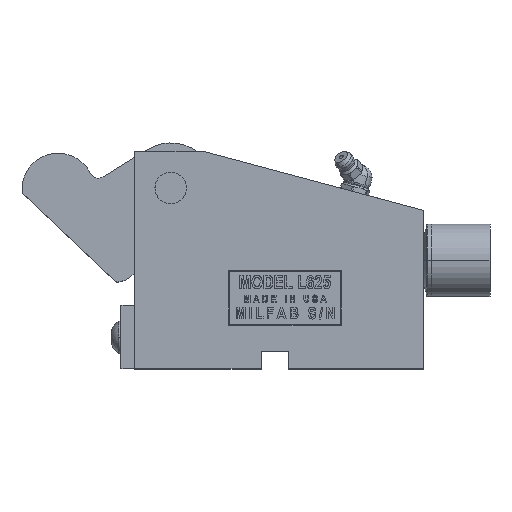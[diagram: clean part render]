
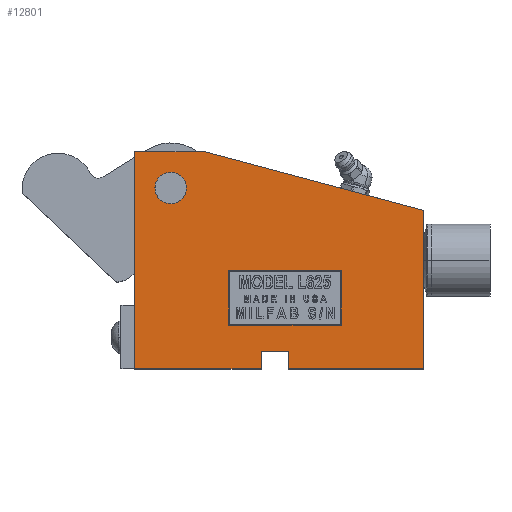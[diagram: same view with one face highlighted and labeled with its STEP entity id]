
A CAD part, top view. The second image highlights one B-rep face of the part: STEP entity #12801.
In plain terms, the highlighted planar face has unit normal (0, 0, 1).
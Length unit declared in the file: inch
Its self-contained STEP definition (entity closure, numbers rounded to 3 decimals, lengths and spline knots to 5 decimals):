
#3869 = PLANE ( 'NONE',  #4307 ) ;
#4004 = CARTESIAN_POINT ( 'NONE',  ( 7.78564, 3.01171, 0. ) ) ;
#4307 = AXIS2_PLACEMENT_3D ( 'NONE', #4004, #4722, #4718 ) ;
#4718 = DIRECTION ( 'NONE',  ( -1., 0., 0. ) ) ;
#4722 = DIRECTION ( 'NONE',  ( 0., 0., -1. ) ) ;
#4832 = CARTESIAN_POINT ( 'NONE',  ( 6.63768, 5.77171, 0. ) ) ;
#4843 = DIRECTION ( 'NONE',  ( -0.966, 0.259, 0. ) ) ;
#4844 = VECTOR ( 'NONE', #4843, 39.37008 ) ;
#4845 = CARTESIAN_POINT ( 'NONE',  ( 6.63768, 5.77171, 0. ) ) ;
#4849 = LINE ( 'NONE', #4845, #4844 ) ;
#4853 = DIRECTION ( 'NONE',  ( 0., 1., 0. ) ) ;
#4854 = VECTOR ( 'NONE', #4853, 39.37008 ) ;
#4855 = CARTESIAN_POINT ( 'NONE',  ( 7.41064, 2.77171, 0. ) ) ;
#4856 = LINE ( 'NONE', #4855, #4854 ) ;
#4939 = DIRECTION ( 'NONE',  ( 0., -1., 0. ) ) ;
#4940 = VECTOR ( 'NONE', #4939, 39.37008 ) ;
#4941 = CARTESIAN_POINT ( 'NONE',  ( 5.66064, 2.77171, 0. ) ) ;
#4942 = LINE ( 'NONE', #4941, #4940 ) ;
#4987 = CARTESIAN_POINT ( 'NONE',  ( 9.66064, 4.96171, 0. ) ) ;
#5006 = CARTESIAN_POINT ( 'NONE',  ( 7.78564, 3.01171, 0. ) ) ;
#5007 = DIRECTION ( 'NONE',  ( 0., -1., 0. ) ) ;
#5008 = VECTOR ( 'NONE', #5007, 39.37008 ) ;
#5009 = CARTESIAN_POINT ( 'NONE',  ( 7.78564, 2.77171, 0. ) ) ;
#5010 = LINE ( 'NONE', #5009, #5008 ) ;
#5018 = CARTESIAN_POINT ( 'NONE',  ( 7.41064, 2.77171, 0. ) ) ;
#5037 = CARTESIAN_POINT ( 'NONE',  ( 5.66064, 2.77171, 0. ) ) ;
#5039 = DIRECTION ( 'NONE',  ( 1., 0., 0. ) ) ;
#5040 = VECTOR ( 'NONE', #5039, 39.37008 ) ;
#5041 = CARTESIAN_POINT ( 'NONE',  ( 5.66064, 2.77171, 0. ) ) ;
#5042 = LINE ( 'NONE', #5041, #5040 ) ;
#5047 = DIRECTION ( 'NONE',  ( -1., 0., 0. ) ) ;
#5048 = VECTOR ( 'NONE', #5047, 39.37008 ) ;
#5049 = CARTESIAN_POINT ( 'NONE',  ( 5.66064, 5.77171, 0. ) ) ;
#5050 = LINE ( 'NONE', #5049, #5048 ) ;
#5122 = CARTESIAN_POINT ( 'NONE',  ( 7.41064, 3.01171, 0. ) ) ;
#5123 = DIRECTION ( 'NONE',  ( 1., 0., 0. ) ) ;
#5124 = VECTOR ( 'NONE', #5123, 39.37008 ) ;
#5125 = CARTESIAN_POINT ( 'NONE',  ( 7.41064, 3.01171, 0. ) ) ;
#5126 = LINE ( 'NONE', #5125, #5124 ) ;
#5289 = CARTESIAN_POINT ( 'NONE',  ( 5.66064, 5.77171, 0. ) ) ;
#5423 = CARTESIAN_POINT ( 'NONE',  ( 9.66064, 2.77171, 0. ) ) ;
#5424 = CARTESIAN_POINT ( 'NONE',  ( 7.78564, 2.77171, 0. ) ) ;
#5425 = DIRECTION ( 'NONE',  ( 1., 0., 0. ) ) ;
#5426 = VECTOR ( 'NONE', #5425, 39.37008 ) ;
#5427 = CARTESIAN_POINT ( 'NONE',  ( 7.78564, 2.77171, 0. ) ) ;
#5428 = LINE ( 'NONE', #5427, #5426 ) ;
#5492 = FACE_OUTER_BOUND ( 'NONE', #12732, .T. ) ;
#5493 = FACE_BOUND ( 'NONE', #12728, .T. ) ;
#5494 = FACE_BOUND ( 'NONE', #12802, .T. ) ;
#5637 = DIRECTION ( 'NONE',  ( 0., 1., 0. ) ) ;
#5638 = VECTOR ( 'NONE', #5637, 39.37008 ) ;
#5639 = CARTESIAN_POINT ( 'NONE',  ( 9.66064, 2.77171, 0. ) ) ;
#5640 = LINE ( 'NONE', #5639, #5638 ) ;
#5641 = DIRECTION ( 'NONE',  ( 1., 0., 0. ) ) ;
#5642 = DIRECTION ( 'NONE',  ( 0., 0., 1. ) ) ;
#5643 = CARTESIAN_POINT ( 'NONE',  ( 6.16064, 5.27171, 0. ) ) ;
#5644 = AXIS2_PLACEMENT_3D ( 'NONE', #5643, #5642, #5641 ) ;
#5645 = CIRCLE ( 'NONE', #5644, 0.218 ) ;
#5646 = DIRECTION ( 'NONE',  ( 0., 1., 0. ) ) ;
#5647 = VECTOR ( 'NONE', #5646, 39.37008 ) ;
#5648 = CARTESIAN_POINT ( 'NONE',  ( 8.52064, 3.37171, 0. ) ) ;
#5649 = LINE ( 'NONE', #5648, #5647 ) ;
#5655 = CARTESIAN_POINT ( 'NONE',  ( 8.52064, 4.13171, 0. ) ) ;
#5799 = CARTESIAN_POINT ( 'NONE',  ( 6.96064, 3.37171, 0. ) ) ;
#5800 = DIRECTION ( 'NONE',  ( 1., 0., 0. ) ) ;
#5831 = DIRECTION ( 'NONE',  ( -1., 0., 0. ) ) ;
#5832 = VECTOR ( 'NONE', #5831, 39.37008 ) ;
#5833 = CARTESIAN_POINT ( 'NONE',  ( 6.96064, 4.13171, 0. ) ) ;
#5834 = LINE ( 'NONE', #5833, #5832 ) ;
#5835 = CARTESIAN_POINT ( 'NONE',  ( 6.96064, 4.13171, 0. ) ) ;
#5836 = DIRECTION ( 'NONE',  ( 0., -1., 0. ) ) ;
#5837 = VECTOR ( 'NONE', #5836, 39.37008 ) ;
#5862 = CARTESIAN_POINT ( 'NONE',  ( 6.96064, 3.37171, 0. ) ) ;
#5863 = LINE ( 'NONE', #5862, #5837 ) ;
#5864 = CARTESIAN_POINT ( 'NONE',  ( 8.52064, 3.37171, 0. ) ) ;
#5887 = VECTOR ( 'NONE', #5800, 39.37008 ) ;
#5888 = CARTESIAN_POINT ( 'NONE',  ( 6.96064, 3.37171, 0. ) ) ;
#5889 = LINE ( 'NONE', #5888, #5887 ) ;
#11197 = EDGE_CURVE ( 'NONE', #11232, #11198, #17622, .T. ) ;
#11198 = VERTEX_POINT ( 'NONE', #18005 ) ;
#11232 = VERTEX_POINT ( 'NONE', #18056 ) ;
#12231 = VERTEX_POINT ( 'NONE', #4987 ) ;
#12261 = EDGE_CURVE ( 'NONE', #12315, #12446, #4856, .T. ) ;
#12263 = EDGE_CURVE ( 'NONE', #12231, #12269, #4849, .T. ) ;
#12269 = VERTEX_POINT ( 'NONE', #4832 ) ;
#12273 = EDGE_CURVE ( 'NONE', #12490, #12369, #4942, .T. ) ;
#12315 = VERTEX_POINT ( 'NONE', #5018 ) ;
#12332 = EDGE_CURVE ( 'NONE', #12269, #12490, #5050, .T. ) ;
#12368 = EDGE_CURVE ( 'NONE', #12369, #12315, #5042, .T. ) ;
#12369 = VERTEX_POINT ( 'NONE', #5037 ) ;
#12412 = EDGE_CURVE ( 'NONE', #12413, #12518, #5010, .T. ) ;
#12413 = VERTEX_POINT ( 'NONE', #5006 ) ;
#12445 = EDGE_CURVE ( 'NONE', #12446, #12413, #5126, .T. ) ;
#12446 = VERTEX_POINT ( 'NONE', #5122 ) ;
#12490 = VERTEX_POINT ( 'NONE', #5289 ) ;
#12517 = EDGE_CURVE ( 'NONE', #12518, #12519, #5428, .T. ) ;
#12518 = VERTEX_POINT ( 'NONE', #5424 ) ;
#12519 = VERTEX_POINT ( 'NONE', #5423 ) ;
#12725 = VERTEX_POINT ( 'NONE', #5655 ) ;
#12726 = ORIENTED_EDGE ( 'NONE', *, *, #12727, .F. ) ;
#12727 = EDGE_CURVE ( 'NONE', #12807, #12725, #5649, .T. ) ;
#12728 = EDGE_LOOP ( 'NONE', ( #12729, #12731 ) ) ;
#12729 = ORIENTED_EDGE ( 'NONE', *, *, #12730, .F. ) ;
#12730 = EDGE_CURVE ( 'NONE', #11198, #11232, #5645, .T. ) ;
#12731 = ORIENTED_EDGE ( 'NONE', *, *, #11197, .F. ) ;
#12732 = EDGE_LOOP ( 'NONE', ( #12733, #12734, #12735, #12736, #12813, #12814, #12815, #12816, #12817 ) ) ;
#12733 = ORIENTED_EDGE ( 'NONE', *, *, #12412, .T. ) ;
#12734 = ORIENTED_EDGE ( 'NONE', *, *, #12517, .T. ) ;
#12735 = ORIENTED_EDGE ( 'NONE', *, *, #12738, .T. ) ;
#12736 = ORIENTED_EDGE ( 'NONE', *, *, #12263, .T. ) ;
#12738 = EDGE_CURVE ( 'NONE', #12519, #12231, #5640, .T. ) ;
#12801 = ADVANCED_FACE ( 'NONE', ( #5494, #5493, #5492 ), #3869, .F. ) ;
#12802 = EDGE_LOOP ( 'NONE', ( #12803, #12808, #12811, #12726 ) ) ;
#12803 = ORIENTED_EDGE ( 'NONE', *, *, #12804, .F. ) ;
#12804 = EDGE_CURVE ( 'NONE', #12805, #12807, #5889, .T. ) ;
#12805 = VERTEX_POINT ( 'NONE', #5799 ) ;
#12807 = VERTEX_POINT ( 'NONE', #5864 ) ;
#12808 = ORIENTED_EDGE ( 'NONE', *, *, #12809, .F. ) ;
#12809 = EDGE_CURVE ( 'NONE', #12810, #12805, #5863, .T. ) ;
#12810 = VERTEX_POINT ( 'NONE', #5835 ) ;
#12811 = ORIENTED_EDGE ( 'NONE', *, *, #12812, .F. ) ;
#12812 = EDGE_CURVE ( 'NONE', #12725, #12810, #5834, .T. ) ;
#12813 = ORIENTED_EDGE ( 'NONE', *, *, #12332, .T. ) ;
#12814 = ORIENTED_EDGE ( 'NONE', *, *, #12273, .T. ) ;
#12815 = ORIENTED_EDGE ( 'NONE', *, *, #12368, .T. ) ;
#12816 = ORIENTED_EDGE ( 'NONE', *, *, #12261, .T. ) ;
#12817 = ORIENTED_EDGE ( 'NONE', *, *, #12445, .T. ) ;
#15968 = DIRECTION ( 'NONE',  ( 1., 0., 0. ) ) ;
#17618 = DIRECTION ( 'NONE',  ( 0., 0., 1. ) ) ;
#17619 = CARTESIAN_POINT ( 'NONE',  ( 6.16064, 5.27171, 0. ) ) ;
#17620 = AXIS2_PLACEMENT_3D ( 'NONE', #17619, #17618, #15968 ) ;
#17622 = CIRCLE ( 'NONE', #17620, 0.218 ) ;
#18005 = CARTESIAN_POINT ( 'NONE',  ( 6.37864, 5.27171, 0. ) ) ;
#18056 = CARTESIAN_POINT ( 'NONE',  ( 5.94264, 5.27171, 0. ) ) ;
